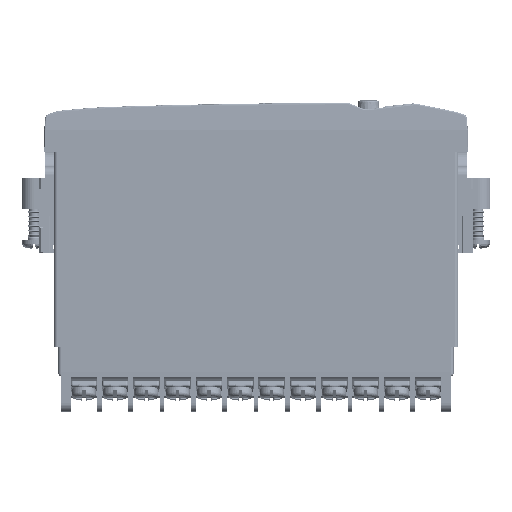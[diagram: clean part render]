
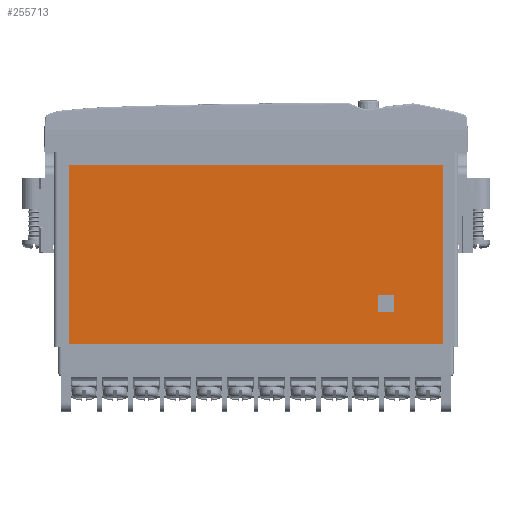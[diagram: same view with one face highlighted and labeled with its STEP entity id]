
A CAD part, left-side view. The second image highlights one B-rep face of the part: STEP entity #255713.
In plain terms, the highlighted planar face has unit normal (-1, 0, 0).
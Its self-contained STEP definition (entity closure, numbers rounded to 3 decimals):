
#6700 = CARTESIAN_POINT ( 'NONE',  ( -45.7, 42.4, -9.35 ) ) ;
#10922 = VECTOR ( 'NONE', #171631, 1000. ) ;
#16619 = VECTOR ( 'NONE', #439009, 1000. ) ;
#29412 = CARTESIAN_POINT ( 'NONE',  ( -45.7, -42.4, -49.85 ) ) ;
#30435 = DIRECTION ( 'NONE',  ( -1., 0., 0. ) ) ;
#33440 = VERTEX_POINT ( 'NONE', #278325 ) ;
#36847 = AXIS2_PLACEMENT_3D ( 'NONE', #298950, #30435, #295986 ) ;
#72906 = LINE ( 'NONE', #287601, #350835 ) ;
#75347 = VERTEX_POINT ( 'NONE', #529890 ) ;
#77116 = EDGE_CURVE ( 'NONE', #501956, #515153, #72906, .T. ) ;
#77830 = VERTEX_POINT ( 'NONE', #29412 ) ;
#79626 = CARTESIAN_POINT ( 'NONE',  ( -45.7, -27.75, -42.75 ) ) ;
#120059 = FACE_BOUND ( 'NONE', #352282, .T. ) ;
#126149 = DIRECTION ( 'NONE',  ( 0., 0., 1. ) ) ;
#128984 = CARTESIAN_POINT ( 'NONE',  ( -45.7, -31.25, -38.75 ) ) ;
#130174 = ORIENTED_EDGE ( 'NONE', *, *, #421839, .F. ) ;
#155042 = CARTESIAN_POINT ( 'NONE',  ( -45.7, 42.4, -9.35 ) ) ;
#160769 = CARTESIAN_POINT ( 'NONE',  ( -45.7, 42.4, -49.85 ) ) ;
#162550 = VECTOR ( 'NONE', #269419, 1000. ) ;
#164677 = FACE_OUTER_BOUND ( 'NONE', #523439, .T. ) ;
#167841 = CARTESIAN_POINT ( 'NONE',  ( -45.7, -42.4, -49.85 ) ) ;
#169262 = EDGE_CURVE ( 'NONE', #75347, #435528, #451881, .T. ) ;
#171631 = DIRECTION ( 'NONE',  ( 0., 0., 1. ) ) ;
#174064 = LINE ( 'NONE', #565658, #162550 ) ;
#210788 = VERTEX_POINT ( 'NONE', #348637 ) ;
#223009 = EDGE_CURVE ( 'NONE', #435528, #210788, #174064, .T. ) ;
#225068 = CARTESIAN_POINT ( 'NONE',  ( -45.7, -31.25, -42.75 ) ) ;
#230362 = EDGE_CURVE ( 'NONE', #33440, #501956, #328561, .T. ) ;
#247900 = ORIENTED_EDGE ( 'NONE', *, *, #342246, .T. ) ;
#255713 = ADVANCED_FACE ( 'NONE', ( #120059, #164677 ), #388193, .T. ) ;
#257188 = LINE ( 'NONE', #128984, #16619 ) ;
#261323 = DIRECTION ( 'NONE',  ( 0., 0., -1. ) ) ;
#269419 = DIRECTION ( 'NONE',  ( 0., -1., 0. ) ) ;
#271789 = EDGE_CURVE ( 'NONE', #210788, #535164, #588920, .T. ) ;
#278325 = CARTESIAN_POINT ( 'NONE',  ( -45.7, -42.4, -9.35 ) ) ;
#287601 = CARTESIAN_POINT ( 'NONE',  ( -45.7, 42.4, -49.85 ) ) ;
#290529 = DIRECTION ( 'NONE',  ( 0., 0., -1. ) ) ;
#295986 = DIRECTION ( 'NONE',  ( 0., 0., 1. ) ) ;
#298950 = CARTESIAN_POINT ( 'NONE',  ( -45.7, -42.4, -49.85 ) ) ;
#307875 = ORIENTED_EDGE ( 'NONE', *, *, #223009, .F. ) ;
#308354 = VECTOR ( 'NONE', #126149, 1000. ) ;
#328561 = LINE ( 'NONE', #6700, #489056 ) ;
#334429 = DIRECTION ( 'NONE',  ( 0., 1., 0. ) ) ;
#342246 = EDGE_CURVE ( 'NONE', #515153, #77830, #543870, .T. ) ;
#348637 = CARTESIAN_POINT ( 'NONE',  ( -45.7, -31.25, -42.75 ) ) ;
#350835 = VECTOR ( 'NONE', #290529, 1000. ) ;
#352282 = EDGE_LOOP ( 'NONE', ( #307875, #437155, #130174, #495010 ) ) ;
#362138 = ORIENTED_EDGE ( 'NONE', *, *, #77116, .T. ) ;
#376141 = VECTOR ( 'NONE', #261323, 1000. ) ;
#388193 = PLANE ( 'NONE',  #36847 ) ;
#407076 = CARTESIAN_POINT ( 'NONE',  ( -45.7, -27.75, -42.75 ) ) ;
#421839 = EDGE_CURVE ( 'NONE', #535164, #75347, #257188, .T. ) ;
#435528 = VERTEX_POINT ( 'NONE', #407076 ) ;
#437155 = ORIENTED_EDGE ( 'NONE', *, *, #169262, .F. ) ;
#439009 = DIRECTION ( 'NONE',  ( 0., 1., 0. ) ) ;
#444858 = VECTOR ( 'NONE', #588635, 1000. ) ;
#450320 = EDGE_CURVE ( 'NONE', #77830, #33440, #573432, .T. ) ;
#451881 = LINE ( 'NONE', #79626, #376141 ) ;
#489056 = VECTOR ( 'NONE', #334429, 1000. ) ;
#495010 = ORIENTED_EDGE ( 'NONE', *, *, #271789, .F. ) ;
#501956 = VERTEX_POINT ( 'NONE', #155042 ) ;
#515153 = VERTEX_POINT ( 'NONE', #160769 ) ;
#516804 = ORIENTED_EDGE ( 'NONE', *, *, #230362, .T. ) ;
#523439 = EDGE_LOOP ( 'NONE', ( #247900, #576473, #516804, #362138 ) ) ;
#529890 = CARTESIAN_POINT ( 'NONE',  ( -45.7, -27.75, -38.75 ) ) ;
#535164 = VERTEX_POINT ( 'NONE', #538926 ) ;
#538926 = CARTESIAN_POINT ( 'NONE',  ( -45.7, -31.25, -38.75 ) ) ;
#543870 = LINE ( 'NONE', #582737, #444858 ) ;
#565658 = CARTESIAN_POINT ( 'NONE',  ( -45.7, -31.25, -42.75 ) ) ;
#573432 = LINE ( 'NONE', #167841, #308354 ) ;
#576473 = ORIENTED_EDGE ( 'NONE', *, *, #450320, .T. ) ;
#582737 = CARTESIAN_POINT ( 'NONE',  ( -45.7, 42.4, -49.85 ) ) ;
#588635 = DIRECTION ( 'NONE',  ( 0., -1., 0. ) ) ;
#588920 = LINE ( 'NONE', #225068, #10922 ) ;
